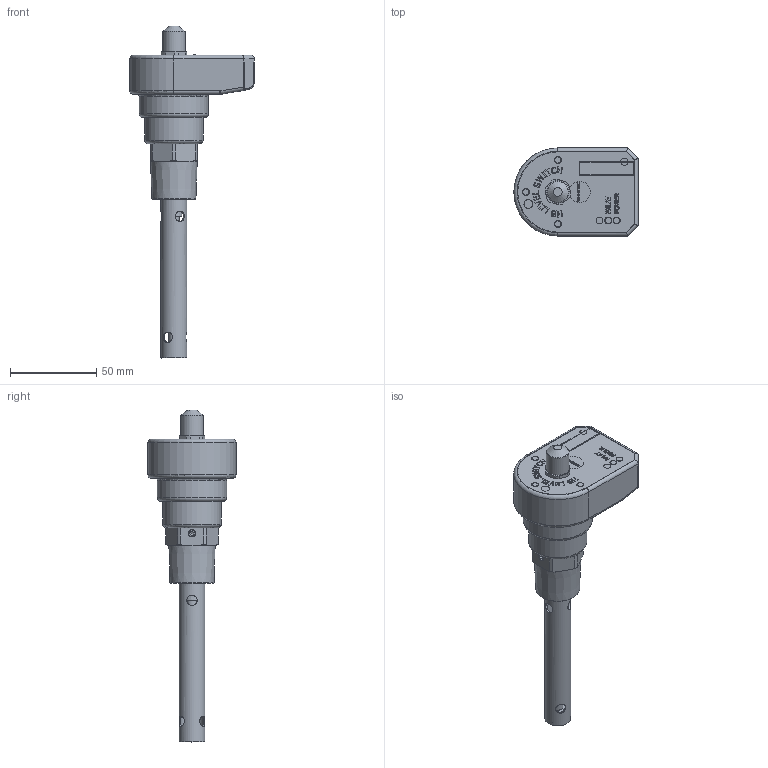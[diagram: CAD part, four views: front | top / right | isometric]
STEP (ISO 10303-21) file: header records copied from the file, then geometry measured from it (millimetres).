
FILE_DESCRIPTION((''),'2;1');
FILE_NAME('R:\Mekanisk design\HBSO-HV\5. STEP files\HBSO-SSR-2.stp','2015-06-19T12:51:55',('kc'),(''),'Autodesk Inventor 2013','Autodesk Inventor 2013','');
FILE_SCHEMA(('AUTOMOTIVE_DESIGN { 1 0 10303 214 1 1 1 1 }'));
Length unit declared in the file: millimetre
Products named in the file (1): HBSO-SSR-2
Bounding box: 72 x 51 x 192.2 mm (x, y, z)
Volume: 78296.7 mm3; surface area: 61925.5 mm2
Topology: 28 solids, 28 shells, 1240 faces, 3227 edges, 2093 vertices
Faces by surface type: plane 716, cylinder 209, bspline 175, torus 71, cone 62, sphere 7
Full cylindrical faces by diameter (mm): 0.5 x2, 1.003 x1, 1.8 x2, 2.459 x2, 2.729 x1, 2.8 x1, 2.83 x1, 3 x3, 3.2 x1, 3.242 x1, 3.5 x2, 3.6 x5, 3.8 x1, 4 x18, 4.134 x2, 4.2 x1, 4.7 x1, 5 x4, 5.9 x1, 6 x12, 6.1 x1, 6.2 x2, 6.3 x1, 8 x2, 9 x1, 9.7 x1, 10 x1, 10.5 x2, 10.55 x2, 11.5 x1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
Entity records: 43692 total; most frequent: CARTESIAN_POINT 14148, ORIENTED_EDGE 5914, DIRECTION 5230, EDGE_CURVE 2957, VERTEX_POINT 1992, AXIS2_PLACEMENT_3D 1744, VECTOR 1742, LINE 1742
